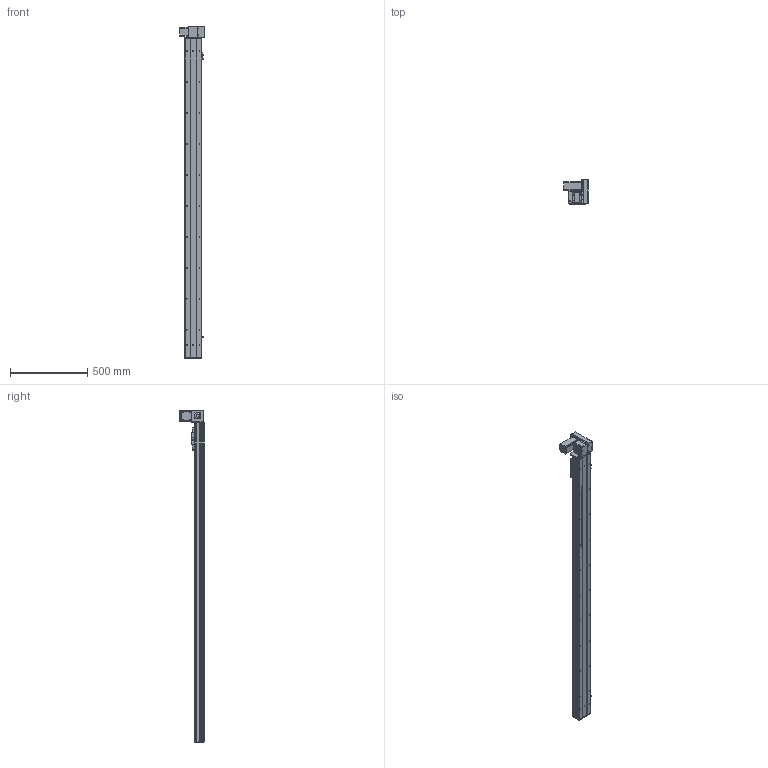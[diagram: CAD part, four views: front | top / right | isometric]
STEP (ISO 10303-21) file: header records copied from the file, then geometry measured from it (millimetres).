
FILE_DESCRIPTION (( 'STEP AP203' ), '1' );
FILE_NAME ('Y10CB-D90-S1800-UR-P400W.STEP', '2020-02-16T03:57:00', ( '微软用户' ), ( '微软中国' ), 'SwSTEP 2.0', 'SolidWorks 2017', '' );
FILE_SCHEMA (( 'CONFIG_CONTROL_DESIGN' ));
Length unit declared in the file: millimetre
Products named in the file (18): san松下电机400不带刹车----; Y100-135俋离換覜ん--; 0B-源倛裔啣; Y10B--々湍喘謫眊--666; 0B-埴倛裔啣; Y10B-耜蚾蟀諉啣----; 10CB-詩湍-; 00B-俋欶BM--; Y10CB- 掛极耜裔啣-毀---; 0CB-雄赽釱---; Y10CB-D90-S1800-UR-P400W; Y10C---詩湍揤啣; 0Cb-俋欶---; 10CB9-掛极; Y10B-々湍喘謫眊楊擘啣--; 10CB-耜裔; 0B-萇儂楊擘啣; Y135C-陔俋离換覜結え-
Assembly tree (21 placements, depth 2):
  Y10CB-D90-S1800-UR-P400W
    0CB-雄赽釱---
    0Cb-俋欶---
    Y10B-々湍喘謫眊楊擘啣--
    0B-萇儂楊擘啣
    san松下电机400不带刹车----
    0B-源倛裔啣
    0B-埴倛裔啣
    10CB-詩湍-
    Y10CB- 掛极耜裔啣-毀---  x2
    Y10C---詩湍揤啣  x2
    10CB9-掛极
    10CB-耜裔
    Y135C-陔俋离換覜結え-
    Y100-135俋离換覜ん--  x3
    Y10B--々湍喘謫眊--666
    Y10B-耜蚾蟀諉啣----
    00B-俋欶BM--
Bounding box: 157 x 155.5 x 2146 mm (x, y, z)
Volume: 4531852.5 mm3; surface area: 2115871.5 mm2
Topology: 21 solids, 21 shells, 1038 faces, 2803 edges, 1826 vertices
Faces by surface type: cylinder 529, plane 485, cone 24
Entity records: 32912 total; most frequent: CARTESIAN_POINT 6061, DIRECTION 5270, ORIENTED_EDGE 5076, EDGE_CURVE 2538, AXIS2_PLACEMENT_3D 1885, VERTEX_POINT 1652, VECTOR 1500, LINE 1500
